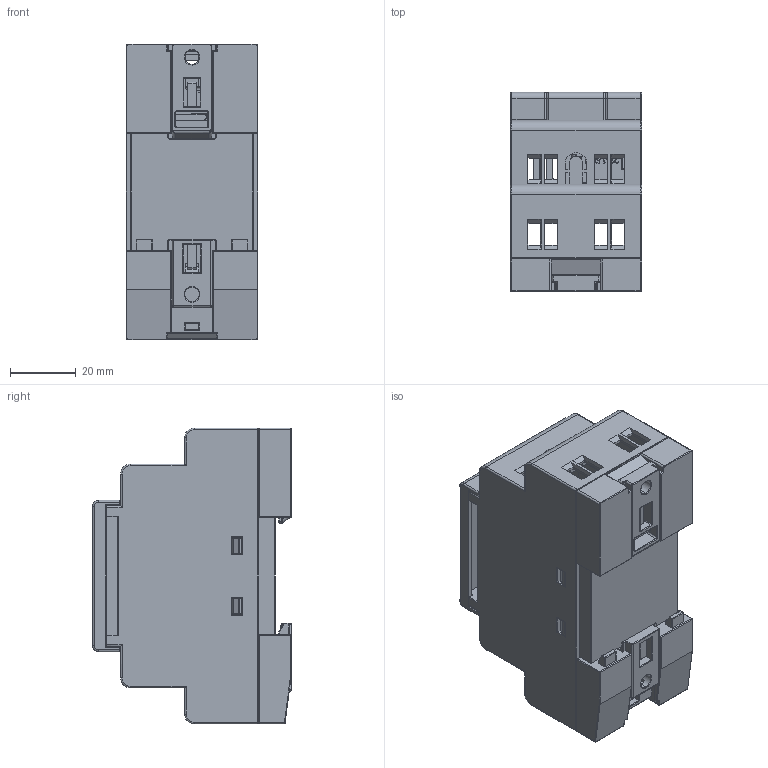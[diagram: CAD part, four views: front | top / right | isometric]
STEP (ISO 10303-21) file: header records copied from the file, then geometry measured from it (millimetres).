
FILE_DESCRIPTION (( 'STEP AP203' ), '1' );
FILE_NAME ('SR-12 Series EXT 3D.STEP', '2024-06-19T10:02:51', ( '' ), ( '' ), 'SwSTEP 2.0', 'SolidWorks 2020', '' );
FILE_SCHEMA (( 'CONFIG_CONTROL_DESIGN' ));
Length unit declared in the file: millimetre
Products named in the file (8): SR-12 ____ __________23-243-5__-243-5___-243-5____.STEP; PR-8E ____________(23-008-1)008-1)_____-1)______.STEP; PR ____________2_______2____2.STEP; 23-159-11 ______a________________.STEP; ________ 23-159-129-129-12.STEP; PR-8E ____________(23-008-2)008-2)008-2).STEP; SR-12 Series EXT 3D; PR ____________2_______2____2-0.STEP
Assembly tree (8 placements, depth 2):
  SR-12 Series EXT 3D
    PR-8E ____________(23-008-2)008-2)008-2).STEP
    PR-8E ____________(23-008-1)008-1)_____-1)______.STEP
    SR-12 ____ __________23-243-5__-243-5___-243-5____.STEP  x2
    PR ____________2_______2____2.STEP
    PR ____________2_______2____2-0.STEP
    23-159-11 ______a________________.STEP
    ________ 23-159-129-129-12.STEP
Bounding box: 40 x 60.5 x 90 mm (x, y, z)
Volume: 48803.5 mm3; surface area: 55202.3 mm2
Topology: 8 solids, 8 shells, 1300 faces, 3297 edges, 1964 vertices
Faces by surface type: plane 618, cylinder 446, torus 116, sphere 67, bspline 53
Entity records: 40604 total; most frequent: CARTESIAN_POINT 9760, ORIENTED_EDGE 6286, DIRECTION 6180, EDGE_CURVE 3143, VECTOR 2114, LINE 2114, AXIS2_PLACEMENT_3D 2033, VERTEX_POINT 1912
